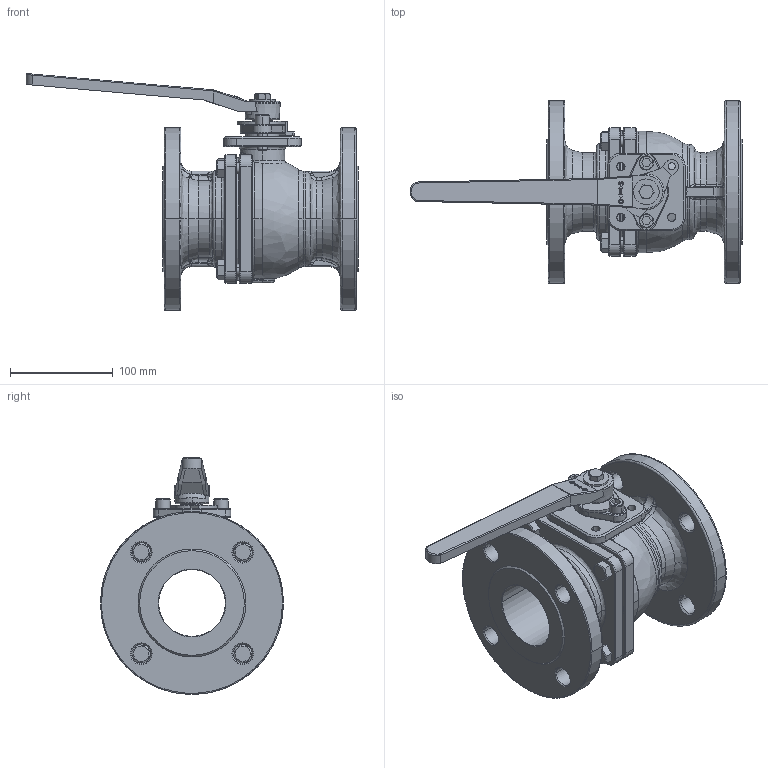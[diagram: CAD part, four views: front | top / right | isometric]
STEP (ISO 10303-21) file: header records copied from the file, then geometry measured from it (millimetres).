
FILE_DESCRIPTION(('Open CASCADE Model'),'2;1');
FILE_NAME('Open CASCADE Shape Model','2021-11-19T08:56:29',('Author'),( 'Open CASCADE'),'Open CASCADE STEP processor 7.3','Open CASCADE 7.3' ,'Unknown');
FILE_SCHEMA(('AUTOMOTIVE_DESIGN { 1 0 10303 214 1 1 1 1 }'));
Length unit declared in the file: millimetre
Products named in the file (24): Open CASCADE STEP translator 7.3 1; Open CASCADE STEP translator 7.3 1.1; Open CASCADE STEP translator 7.3 1.2; Open CASCADE STEP translator 7.3 1.3; Open CASCADE STEP translator 7.3 1.4; Open CASCADE STEP translator 7.3 1.5; Open CASCADE STEP translator 7.3 1.6; Open CASCADE STEP translator 7.3 1.7; Open CASCADE STEP translator 7.3 1.8; Open CASCADE STEP translator 7.3 1.9; Open CASCADE STEP translator 7.3 1.10; Open CASCADE STEP translator 7.3 1.11; Open CASCADE STEP translator 7.3 1.12; Open CASCADE STEP translator 7.3 1.13; Open CASCADE STEP translator 7.3 1.14; Open CASCADE STEP translator 7.3 1.15; Open CASCADE STEP translator 7.3 1.16; Open CASCADE STEP translator 7.3 1.17; Open CASCADE STEP translator 7.3 1.18; Open CASCADE STEP translator 7.3 1.19; Open CASCADE STEP translator 7.3 1.20; Open CASCADE STEP translator 7.3 1.21; Open CASCADE STEP translator 7.3 1.22; Open CASCADE STEP translator 7.3 1.23
Assembly tree (23 placements, depth 2):
  Open CASCADE STEP translator 7.3 1
    Open CASCADE STEP translator 7.3 1.1
    Open CASCADE STEP translator 7.3 1.2
    Open CASCADE STEP translator 7.3 1.3
    Open CASCADE STEP translator 7.3 1.4
    Open CASCADE STEP translator 7.3 1.5
    Open CASCADE STEP translator 7.3 1.6
    Open CASCADE STEP translator 7.3 1.7
    Open CASCADE STEP translator 7.3 1.8
    Open CASCADE STEP translator 7.3 1.9
    Open CASCADE STEP translator 7.3 1.10
    Open CASCADE STEP translator 7.3 1.11
    Open CASCADE STEP translator 7.3 1.12
    Open CASCADE STEP translator 7.3 1.13
    Open CASCADE STEP translator 7.3 1.14
    Open CASCADE STEP translator 7.3 1.15
    Open CASCADE STEP translator 7.3 1.16
    Open CASCADE STEP translator 7.3 1.17
    Open CASCADE STEP translator 7.3 1.18
    Open CASCADE STEP translator 7.3 1.19
    Open CASCADE STEP translator 7.3 1.20
    Open CASCADE STEP translator 7.3 1.21
    Open CASCADE STEP translator 7.3 1.22
    Open CASCADE STEP translator 7.3 1.23
Bounding box: 323.1 x 178 x 230.51 mm (x, y, z)
Volume: 1575652.9 mm3; surface area: 365112.6 mm2
Topology: 23 solids, 23 shells, 885 faces, 2135 edges, 1307 vertices
Faces by surface type: cylinder 299, plane 243, bspline 209, cone 134
Entity records: 125832 total; most frequent: CARTESIAN_POINT 86482, DIRECTION 6308, ORIENTED_EDGE 4218, PCURVE 4218, DEFINITIONAL_REPRESENTATION 4218, LINE 3183, VECTOR 3183, EDGE_CURVE 2109
